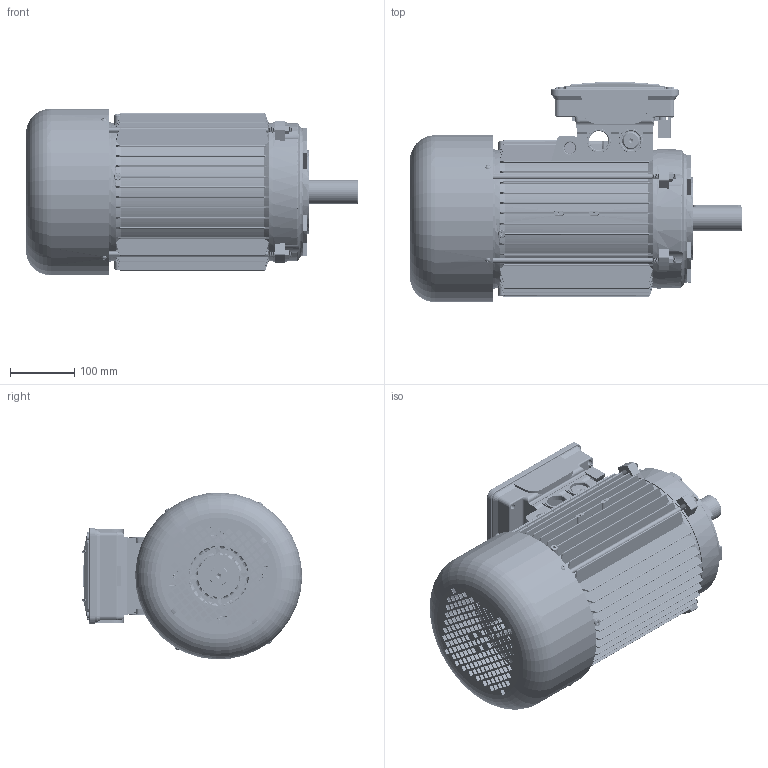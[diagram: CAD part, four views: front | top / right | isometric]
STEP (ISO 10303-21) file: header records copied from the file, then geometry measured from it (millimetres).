
FILE_DESCRIPTION (( 'STEP AP214' ), '1' );
FILE_NAME ('M24JC0012.STEP', '2019-04-13T08:34:42', ( '' ), ( '' ), 'SwSTEP 2.0', 'SolidWorks 2018', '' );
FILE_SCHEMA (( 'AUTOMOTIVE_DESIGN' ));
Length unit declared in the file: millimetre
Products named in the file (19): Scatola per Morsettiera BA 132 - DGBQ0102; dado M8_M8-1.25; Tirante SM 132 M - DGCQ0003; Vite testa rotonda M3; Cuffia SM 132; Scudo Lato Comando B3 BA 132; Chiavetta 132; Albero SM 132 M; Scatola BA 132 - Completa; Scudo a Flangia B14 BA 132; Vite M5x20; Carcassa 132 M B5; Coperchio Scatola Morsettiera BA 132 - DGBR0002; M24JC0012; Guarnizione Coperchio Morsettiera Doppia Scatola BA 132 - DGBS0102; Piastra stringi Pipetta BA 132 - DGBA0210 bis; Guarnizione Basetta BA 132 - DGBU0202; Vite Autofilettante Testa Bombata 4,8x9,5; Pipetta passafilo
Assembly tree (31 placements, depth 3):
  M24JC0012
    Carcassa 132 M B5
    Scudo a Flangia B14 BA 132
    Albero SM 132 M
    Chiavetta 132
    Scudo Lato Comando B3 BA 132
    Cuffia SM 132
    Vite testa rotonda M3  x4
    Tirante SM 132 M - DGCQ0003  x4
    dado M8_M8-1.25  x4
    Scatola BA 132 - Completa
      Scatola per Morsettiera BA 132 - DGBQ0102
      Pipetta passafilo  x2
      Vite Autofilettante Testa Bombata 4,8x9,5
      Guarnizione Basetta BA 132 - DGBU0202
      Piastra stringi Pipetta BA 132 - DGBA0210 bis
      Guarnizione Coperchio Morsettiera Doppia Scatola BA 132 - DGBS0102
      Coperchio Scatola Morsettiera BA 132 - DGBR0002
      Vite M5x20  x4
Bounding box: 517 x 342.81 x 259.84 mm (x, y, z)
Volume: 4051765.8 mm3; surface area: 1653790.1 mm2
Topology: 30 solids, 30 shells, 5185 faces, 14191 edges, 9104 vertices
Faces by surface type: cylinder 2373, plane 1668, torus 474, cone 407, bspline 243, sphere 20
Entity records: 159743 total; most frequent: CARTESIAN_POINT 53134, ORIENTED_EDGE 23064, DIRECTION 20894, EDGE_CURVE 11532, AXIS2_PLACEMENT_3D 7668, VERTEX_POINT 7415, LINE 5558, VECTOR 5558
